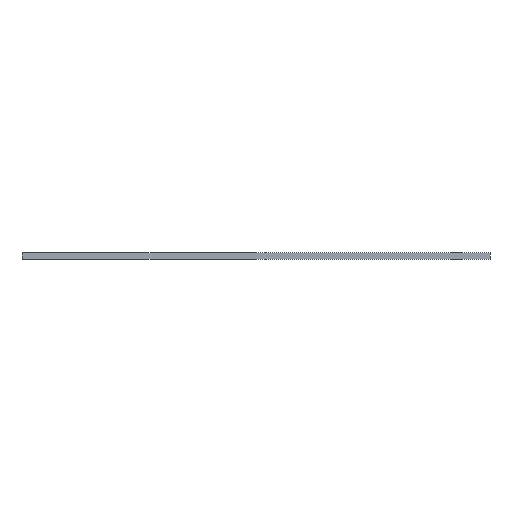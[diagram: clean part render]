
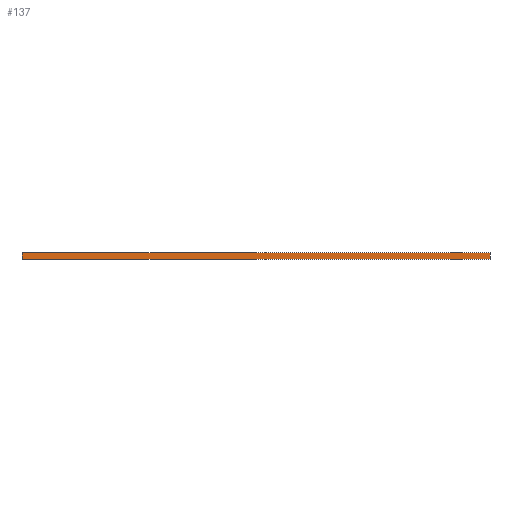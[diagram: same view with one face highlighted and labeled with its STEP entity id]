
A CAD part, front view. The second image highlights one B-rep face of the part: STEP entity #137.
In plain terms, the highlighted planar face has unit normal (0, -1, 0).
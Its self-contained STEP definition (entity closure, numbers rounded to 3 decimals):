
#21 = EDGE_CURVE('',#22,#24,#26,.T.);
#22 = VERTEX_POINT('',#23);
#23 = CARTESIAN_POINT('',(-105.,-148.5,0.));
#24 = VERTEX_POINT('',#25);
#25 = CARTESIAN_POINT('',(-105.,-148.5,3.));
#26 = SURFACE_CURVE('',#27,(#31,#43),.PCURVE_S1.);
#27 = LINE('',#28,#29);
#28 = CARTESIAN_POINT('',(-105.,-148.5,0.));
#29 = VECTOR('',#30,1.);
#30 = DIRECTION('',(0.,0.,1.));
#31 = PCURVE('',#32,#37);
#32 = PLANE('',#33);
#33 = AXIS2_PLACEMENT_3D('',#34,#35,#36);
#34 = CARTESIAN_POINT('',(-105.,-148.5,0.));
#35 = DIRECTION('',(1.,0.,0.));
#36 = DIRECTION('',(0.,0.,1.));
#37 = DEFINITIONAL_REPRESENTATION('',(#38),#42);
#38 = LINE('',#39,#40);
#39 = CARTESIAN_POINT('',(0.,0.));
#40 = VECTOR('',#41,1.);
#41 = DIRECTION('',(1.,0.));
#42 = ( GEOMETRIC_REPRESENTATION_CONTEXT(2) 
PARAMETRIC_REPRESENTATION_CONTEXT() REPRESENTATION_CONTEXT('2D SPACE',''
  ) );
#43 = PCURVE('',#44,#49);
#44 = PLANE('',#45);
#45 = AXIS2_PLACEMENT_3D('',#46,#47,#48);
#46 = CARTESIAN_POINT('',(-105.,-148.5,0.));
#47 = DIRECTION('',(0.,1.,0.));
#48 = DIRECTION('',(0.,0.,1.));
#49 = DEFINITIONAL_REPRESENTATION('',(#50),#54);
#50 = LINE('',#51,#52);
#51 = CARTESIAN_POINT('',(0.,0.));
#52 = VECTOR('',#53,1.);
#53 = DIRECTION('',(1.,0.));
#54 = ( GEOMETRIC_REPRESENTATION_CONTEXT(2) 
PARAMETRIC_REPRESENTATION_CONTEXT() REPRESENTATION_CONTEXT('2D SPACE',''
  ) );
#72 = PLANE('',#73);
#73 = AXIS2_PLACEMENT_3D('',#74,#75,#76);
#74 = CARTESIAN_POINT('',(-105.,-148.5,0.));
#75 = DIRECTION('',(0.,0.,1.));
#76 = DIRECTION('',(1.,0.,0.));
#126 = PLANE('',#127);
#127 = AXIS2_PLACEMENT_3D('',#128,#129,#130);
#128 = CARTESIAN_POINT('',(-105.,-148.5,3.));
#129 = DIRECTION('',(0.,0.,1.));
#130 = DIRECTION('',(1.,0.,0.));
#137 = ADVANCED_FACE('',(#138),#44,.F.);
#138 = FACE_BOUND('',#139,.F.);
#139 = EDGE_LOOP('',(#140,#163,#164,#187));
#140 = ORIENTED_EDGE('',*,*,#141,.F.);
#141 = EDGE_CURVE('',#22,#142,#144,.T.);
#142 = VERTEX_POINT('',#143);
#143 = CARTESIAN_POINT('',(105.,-148.5,0.));
#144 = SURFACE_CURVE('',#145,(#149,#156),.PCURVE_S1.);
#145 = LINE('',#146,#147);
#146 = CARTESIAN_POINT('',(-105.,-148.5,0.));
#147 = VECTOR('',#148,1.);
#148 = DIRECTION('',(1.,0.,0.));
#149 = PCURVE('',#44,#150);
#150 = DEFINITIONAL_REPRESENTATION('',(#151),#155);
#151 = LINE('',#152,#153);
#152 = CARTESIAN_POINT('',(0.,0.));
#153 = VECTOR('',#154,1.);
#154 = DIRECTION('',(0.,1.));
#155 = ( GEOMETRIC_REPRESENTATION_CONTEXT(2) 
PARAMETRIC_REPRESENTATION_CONTEXT() REPRESENTATION_CONTEXT('2D SPACE',''
  ) );
#156 = PCURVE('',#72,#157);
#157 = DEFINITIONAL_REPRESENTATION('',(#158),#162);
#158 = LINE('',#159,#160);
#159 = CARTESIAN_POINT('',(0.,0.));
#160 = VECTOR('',#161,1.);
#161 = DIRECTION('',(1.,0.));
#162 = ( GEOMETRIC_REPRESENTATION_CONTEXT(2) 
PARAMETRIC_REPRESENTATION_CONTEXT() REPRESENTATION_CONTEXT('2D SPACE',''
  ) );
#163 = ORIENTED_EDGE('',*,*,#21,.T.);
#164 = ORIENTED_EDGE('',*,*,#165,.T.);
#165 = EDGE_CURVE('',#24,#166,#168,.T.);
#166 = VERTEX_POINT('',#167);
#167 = CARTESIAN_POINT('',(105.,-148.5,3.));
#168 = SURFACE_CURVE('',#169,(#173,#180),.PCURVE_S1.);
#169 = LINE('',#170,#171);
#170 = CARTESIAN_POINT('',(-105.,-148.5,3.));
#171 = VECTOR('',#172,1.);
#172 = DIRECTION('',(1.,0.,0.));
#173 = PCURVE('',#44,#174);
#174 = DEFINITIONAL_REPRESENTATION('',(#175),#179);
#175 = LINE('',#176,#177);
#176 = CARTESIAN_POINT('',(3.,0.));
#177 = VECTOR('',#178,1.);
#178 = DIRECTION('',(0.,1.));
#179 = ( GEOMETRIC_REPRESENTATION_CONTEXT(2) 
PARAMETRIC_REPRESENTATION_CONTEXT() REPRESENTATION_CONTEXT('2D SPACE',''
  ) );
#180 = PCURVE('',#126,#181);
#181 = DEFINITIONAL_REPRESENTATION('',(#182),#186);
#182 = LINE('',#183,#184);
#183 = CARTESIAN_POINT('',(0.,0.));
#184 = VECTOR('',#185,1.);
#185 = DIRECTION('',(1.,0.));
#186 = ( GEOMETRIC_REPRESENTATION_CONTEXT(2) 
PARAMETRIC_REPRESENTATION_CONTEXT() REPRESENTATION_CONTEXT('2D SPACE',''
  ) );
#187 = ORIENTED_EDGE('',*,*,#188,.F.);
#188 = EDGE_CURVE('',#142,#166,#189,.T.);
#189 = SURFACE_CURVE('',#190,(#194,#201),.PCURVE_S1.);
#190 = LINE('',#191,#192);
#191 = CARTESIAN_POINT('',(105.,-148.5,0.));
#192 = VECTOR('',#193,1.);
#193 = DIRECTION('',(0.,0.,1.));
#194 = PCURVE('',#44,#195);
#195 = DEFINITIONAL_REPRESENTATION('',(#196),#200);
#196 = LINE('',#197,#198);
#197 = CARTESIAN_POINT('',(0.,210.));
#198 = VECTOR('',#199,1.);
#199 = DIRECTION('',(1.,0.));
#200 = ( GEOMETRIC_REPRESENTATION_CONTEXT(2) 
PARAMETRIC_REPRESENTATION_CONTEXT() REPRESENTATION_CONTEXT('2D SPACE',''
  ) );
#201 = PCURVE('',#202,#207);
#202 = PLANE('',#203);
#203 = AXIS2_PLACEMENT_3D('',#204,#205,#206);
#204 = CARTESIAN_POINT('',(105.,-148.5,0.));
#205 = DIRECTION('',(1.,0.,0.));
#206 = DIRECTION('',(0.,0.,1.));
#207 = DEFINITIONAL_REPRESENTATION('',(#208),#212);
#208 = LINE('',#209,#210);
#209 = CARTESIAN_POINT('',(0.,0.));
#210 = VECTOR('',#211,1.);
#211 = DIRECTION('',(1.,0.));
#212 = ( GEOMETRIC_REPRESENTATION_CONTEXT(2) 
PARAMETRIC_REPRESENTATION_CONTEXT() REPRESENTATION_CONTEXT('2D SPACE',''
  ) );
